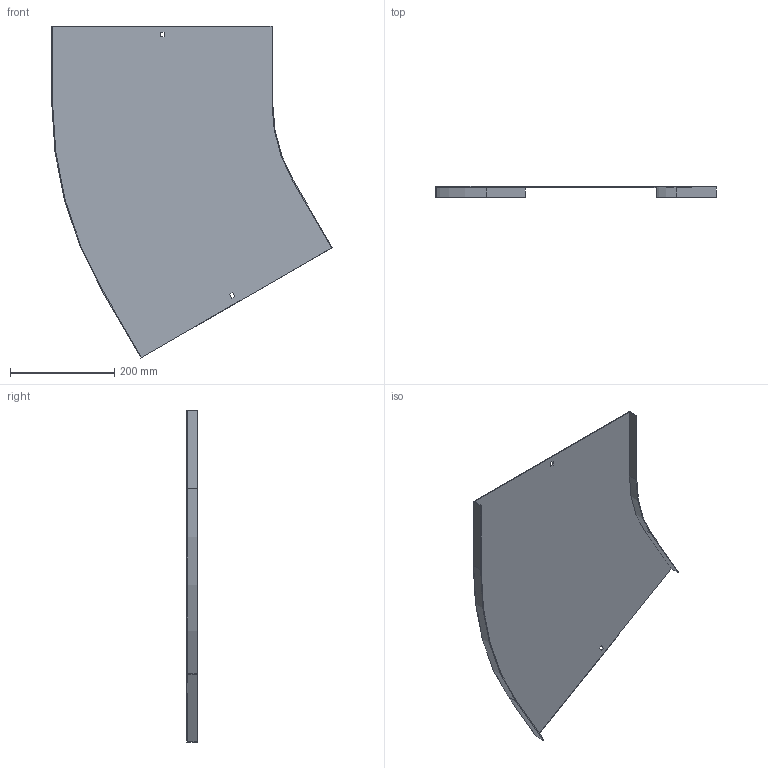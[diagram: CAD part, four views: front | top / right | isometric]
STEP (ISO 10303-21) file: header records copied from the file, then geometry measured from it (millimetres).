
FILE_DESCRIPTION (( 'STEP AP214' ), '1' );
FILE_NAME ('12N3P400.step', '2025-02-21T13:33:54', ( '' ), ( '' ), 'SwSTEP 2.0', 'SolidWorks 2023', '' );
FILE_SCHEMA (( 'AUTOMOTIVE_DESIGN' ));
Length unit declared in the file: millimetre
Products named in the file (1): 12N3P400
Bounding box: 536.65 x 20 x 635.65 mm (x, y, z)
Volume: 387466.1 mm3; surface area: 519779.8 mm2
Topology: 1 solids, 1 shells, 26 faces, 72 edges, 48 vertices
Faces by surface type: plane 22, cylinder 4
Entity records: 855 total; most frequent: CARTESIAN_POINT 147, ORIENTED_EDGE 144, DIRECTION 134, EDGE_CURVE 72, LINE 64, VECTOR 64, VERTEX_POINT 48, AXIS2_PLACEMENT_3D 35
